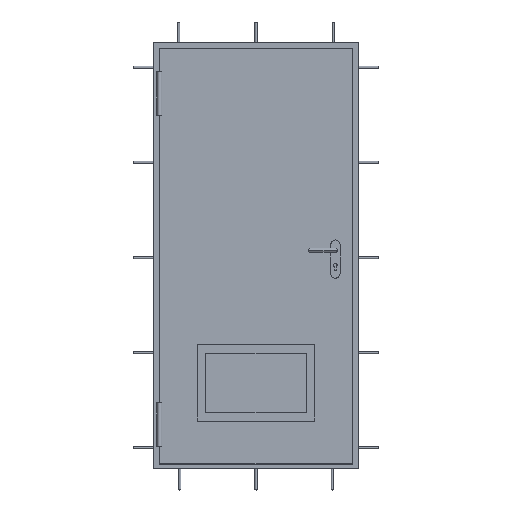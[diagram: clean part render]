
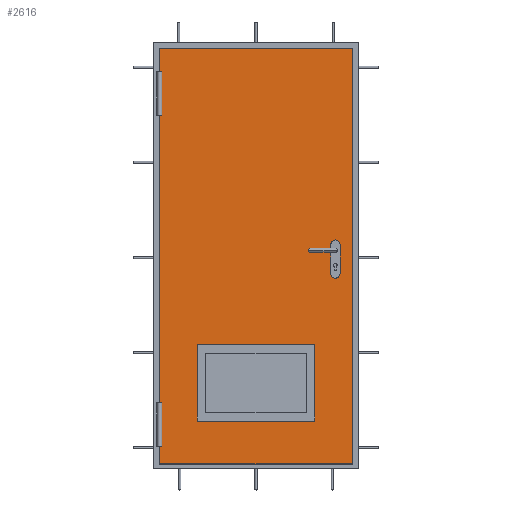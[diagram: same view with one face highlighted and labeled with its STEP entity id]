
A CAD part, top view. The second image highlights one B-rep face of the part: STEP entity #2616.
In plain terms, the highlighted planar face has unit normal (0, 0, 1).
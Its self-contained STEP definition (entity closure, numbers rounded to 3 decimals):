
#334=DIRECTION('',(1.,0.,0.));
#335=VECTOR('',#334,10.25);
#336=CARTESIAN_POINT('',(-466.,887.5,0.));
#337=LINE('',#336,#335);
#338=DIRECTION('',(0.,-1.,0.));
#339=VECTOR('',#338,110.5);
#340=CARTESIAN_POINT('',(-466.,998.,0.));
#341=LINE('',#340,#339);
#342=DIRECTION('',(-1.,0.,0.));
#343=VECTOR('',#342,932.);
#344=CARTESIAN_POINT('',(466.,998.,0.));
#345=LINE('',#344,#343);
#346=DIRECTION('',(0.,1.,0.));
#347=VECTOR('',#346,2012.);
#348=CARTESIAN_POINT('',(466.,-1014.,0.));
#349=LINE('',#348,#347);
#350=DIRECTION('',(1.,0.,0.));
#351=VECTOR('',#350,932.);
#352=CARTESIAN_POINT('',(-466.,-1014.,0.));
#353=LINE('',#352,#351);
#354=DIRECTION('',(0.,-1.,0.));
#355=VECTOR('',#354,83.5);
#356=CARTESIAN_POINT('',(-466.,-930.5,0.));
#357=LINE('',#356,#355);
#358=DIRECTION('',(1.,0.,0.));
#359=VECTOR('',#358,10.25);
#360=CARTESIAN_POINT('',(-466.,-930.5,0.));
#361=LINE('',#360,#359);
#362=DIRECTION('',(0.,-1.,0.));
#363=VECTOR('',#362,213.);
#364=CARTESIAN_POINT('',(-455.75,-717.5,0.));
#365=LINE('',#364,#363);
#366=DIRECTION('',(1.,0.,0.));
#367=VECTOR('',#366,10.25);
#368=CARTESIAN_POINT('',(-466.,-717.5,0.));
#369=LINE('',#368,#367);
#370=DIRECTION('',(0.,-1.,0.));
#371=VECTOR('',#370,1392.);
#372=CARTESIAN_POINT('',(-466.,674.5,0.));
#373=LINE('',#372,#371);
#374=DIRECTION('',(1.,0.,0.));
#375=VECTOR('',#374,10.25);
#376=CARTESIAN_POINT('',(-466.,674.5,0.));
#377=LINE('',#376,#375);
#378=DIRECTION('',(0.,1.,0.));
#379=VECTOR('',#378,213.);
#380=CARTESIAN_POINT('',(-455.75,674.5,0.));
#381=LINE('',#380,#379);
#382=DIRECTION('',(0.,-1.,0.));
#383=VECTOR('',#382,140.);
#384=CARTESIAN_POINT('',(362.,48.5,0.));
#385=LINE('',#384,#383);
#386=CARTESIAN_POINT('',(384.5,-91.5,0.));
#387=DIRECTION('',(0.,0.,1.));
#388=DIRECTION('',(-1.,0.,0.));
#389=AXIS2_PLACEMENT_3D('',#386,#387,#388);
#391=DIRECTION('',(0.,1.,0.));
#392=VECTOR('',#391,140.);
#393=CARTESIAN_POINT('',(407.,-91.5,0.));
#394=LINE('',#393,#392);
#395=CARTESIAN_POINT('',(384.5,48.5,0.));
#396=DIRECTION('',(0.,0.,1.));
#397=DIRECTION('',(1.,0.,0.));
#398=AXIS2_PLACEMENT_3D('',#395,#396,#397);
#400=DIRECTION('',(0.,-1.,0.));
#401=VECTOR('',#400,371.);
#402=CARTESIAN_POINT('',(-285.5,-435.,0.));
#403=LINE('',#402,#401);
#404=DIRECTION('',(1.,0.,0.));
#405=VECTOR('',#404,571.);
#406=CARTESIAN_POINT('',(-285.5,-806.,0.));
#407=LINE('',#406,#405);
#408=DIRECTION('',(0.,1.,0.));
#409=VECTOR('',#408,371.);
#410=CARTESIAN_POINT('',(285.5,-806.,0.));
#411=LINE('',#410,#409);
#412=DIRECTION('',(-1.,0.,0.));
#413=VECTOR('',#412,571.);
#414=CARTESIAN_POINT('',(285.5,-435.,0.));
#415=LINE('',#414,#413);
#1903=CARTESIAN_POINT('',(-466.,-1014.,0.));
#1904=CARTESIAN_POINT('',(466.,-1014.,0.));
#1905=VERTEX_POINT('',#1903);
#1906=VERTEX_POINT('',#1904);
#1907=CARTESIAN_POINT('',(466.,998.,0.));
#1908=VERTEX_POINT('',#1907);
#1909=CARTESIAN_POINT('',(-466.,998.,0.));
#1910=VERTEX_POINT('',#1909);
#1935=CARTESIAN_POINT('',(-466.,-930.5,0.));
#1936=CARTESIAN_POINT('',(-455.75,-930.5,0.));
#1937=VERTEX_POINT('',#1935);
#1938=VERTEX_POINT('',#1936);
#1939=CARTESIAN_POINT('',(-466.,-717.5,0.));
#1940=CARTESIAN_POINT('',(-455.75,-717.5,0.));
#1941=VERTEX_POINT('',#1939);
#1942=VERTEX_POINT('',#1940);
#1959=CARTESIAN_POINT('',(-466.,887.5,0.));
#1960=CARTESIAN_POINT('',(-455.75,887.5,0.));
#1961=VERTEX_POINT('',#1959);
#1962=VERTEX_POINT('',#1960);
#1963=CARTESIAN_POINT('',(-466.,674.5,0.));
#1964=CARTESIAN_POINT('',(-455.75,674.5,0.));
#1965=VERTEX_POINT('',#1963);
#1966=VERTEX_POINT('',#1964);
#1991=CARTESIAN_POINT('',(362.,48.5,0.));
#1992=CARTESIAN_POINT('',(362.,-91.5,0.));
#1993=VERTEX_POINT('',#1991);
#1994=VERTEX_POINT('',#1992);
#1995=CARTESIAN_POINT('',(407.,-91.5,0.));
#1996=VERTEX_POINT('',#1995);
#1997=CARTESIAN_POINT('',(407.,48.5,0.));
#1998=VERTEX_POINT('',#1997);
#2095=CARTESIAN_POINT('',(-285.5,-435.,0.));
#2096=CARTESIAN_POINT('',(-285.5,-806.,0.));
#2097=VERTEX_POINT('',#2095);
#2098=VERTEX_POINT('',#2096);
#2099=CARTESIAN_POINT('',(285.5,-806.,0.));
#2100=VERTEX_POINT('',#2099);
#2101=CARTESIAN_POINT('',(285.5,-435.,0.));
#2102=VERTEX_POINT('',#2101);
#2566=CARTESIAN_POINT('',(0.,0.,0.));
#2567=DIRECTION('',(0.,0.,1.));
#2568=DIRECTION('',(1.,0.,0.));
#2569=AXIS2_PLACEMENT_3D('',#2566,#2567,#2568);
#2570=PLANE('',#2569);
#2572=ORIENTED_EDGE('',*,*,#2571,.F.);
#2574=ORIENTED_EDGE('',*,*,#2573,.F.);
#2576=ORIENTED_EDGE('',*,*,#2575,.F.);
#2578=ORIENTED_EDGE('',*,*,#2577,.F.);
#2580=ORIENTED_EDGE('',*,*,#2579,.F.);
#2582=ORIENTED_EDGE('',*,*,#2581,.F.);
#2584=ORIENTED_EDGE('',*,*,#2583,.T.);
#2586=ORIENTED_EDGE('',*,*,#2585,.F.);
#2588=ORIENTED_EDGE('',*,*,#2587,.F.);
#2590=ORIENTED_EDGE('',*,*,#2589,.F.);
#2592=ORIENTED_EDGE('',*,*,#2591,.T.);
#2594=ORIENTED_EDGE('',*,*,#2593,.T.);
#2595=EDGE_LOOP('',(#2572,#2574,#2576,#2578,#2580,#2582,#2584,#2586,#2588,#2590,
#2592,#2594));
#2596=FACE_OUTER_BOUND('',#2595,.F.);
#2597=ORIENTED_EDGE('',*,*,#2526,.T.);
#2599=ORIENTED_EDGE('',*,*,#2598,.T.);
#2601=ORIENTED_EDGE('',*,*,#2600,.T.);
#2603=ORIENTED_EDGE('',*,*,#2602,.T.);
#2604=EDGE_LOOP('',(#2597,#2599,#2601,#2603));
#2605=FACE_BOUND('',#2604,.F.);
#2607=ORIENTED_EDGE('',*,*,#2606,.T.);
#2609=ORIENTED_EDGE('',*,*,#2608,.T.);
#2611=ORIENTED_EDGE('',*,*,#2610,.T.);
#2613=ORIENTED_EDGE('',*,*,#2612,.T.);
#2614=EDGE_LOOP('',(#2607,#2609,#2611,#2613));
#2615=FACE_BOUND('',#2614,.F.);
#390=CIRCLE('',#389,22.5);
#399=CIRCLE('',#398,22.5);
#2526=EDGE_CURVE('',#1993,#1994,#385,.T.);
#2571=EDGE_CURVE('',#1961,#1962,#337,.T.);
#2573=EDGE_CURVE('',#1910,#1961,#341,.T.);
#2575=EDGE_CURVE('',#1908,#1910,#345,.T.);
#2577=EDGE_CURVE('',#1906,#1908,#349,.T.);
#2579=EDGE_CURVE('',#1905,#1906,#353,.T.);
#2581=EDGE_CURVE('',#1937,#1905,#357,.T.);
#2583=EDGE_CURVE('',#1937,#1938,#361,.T.);
#2585=EDGE_CURVE('',#1942,#1938,#365,.T.);
#2587=EDGE_CURVE('',#1941,#1942,#369,.T.);
#2589=EDGE_CURVE('',#1965,#1941,#373,.T.);
#2591=EDGE_CURVE('',#1965,#1966,#377,.T.);
#2593=EDGE_CURVE('',#1966,#1962,#381,.T.);
#2598=EDGE_CURVE('',#1994,#1996,#390,.T.);
#2600=EDGE_CURVE('',#1996,#1998,#394,.T.);
#2602=EDGE_CURVE('',#1998,#1993,#399,.T.);
#2606=EDGE_CURVE('',#2097,#2098,#403,.T.);
#2608=EDGE_CURVE('',#2098,#2100,#407,.T.);
#2610=EDGE_CURVE('',#2100,#2102,#411,.T.);
#2612=EDGE_CURVE('',#2102,#2097,#415,.T.);
#2616=ADVANCED_FACE('',(#2596,#2605,#2615),#2570,.T.);
